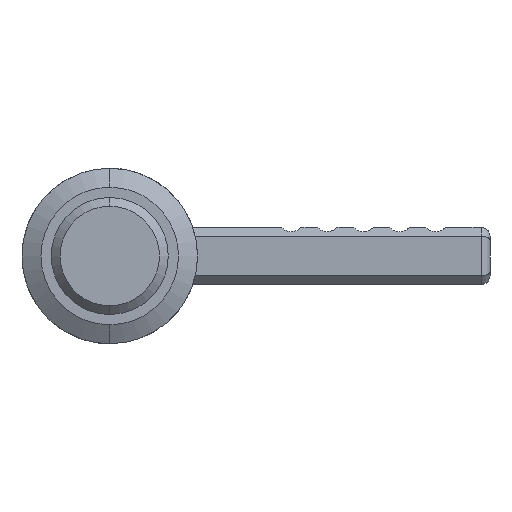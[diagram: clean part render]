
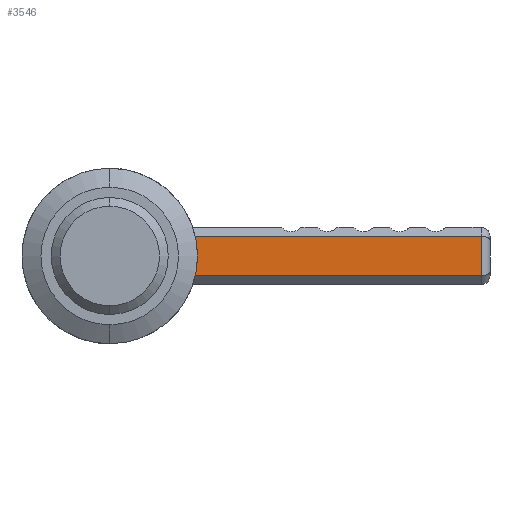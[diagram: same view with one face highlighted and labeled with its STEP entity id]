
A CAD part, front view. The second image highlights one B-rep face of the part: STEP entity #3546.
In plain terms, the highlighted planar face has unit normal (0, -1, 0).
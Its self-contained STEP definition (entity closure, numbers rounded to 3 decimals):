
#68 = ORIENTED_EDGE ( 'NONE', *, *, #3226, .T. ) ;
#181 = VERTEX_POINT ( 'NONE', #612 ) ;
#495 = CARTESIAN_POINT ( 'NONE',  ( 0., 35., -3.299 ) ) ;
#612 = CARTESIAN_POINT ( 'NONE',  ( 3.708, 35., 1.349 ) ) ;
#912 = CARTESIAN_POINT ( 'NONE',  ( 2.718, 35., -1.87 ) ) ;
#964 = DIRECTION ( 'NONE',  ( 0., 0., 1. ) ) ;
#965 = DIRECTION ( 'NONE',  ( 0., -1., 0. ) ) ;
#966 = CARTESIAN_POINT ( 'NONE',  ( 0., 35., 0. ) ) ;
#967 = AXIS2_PLACEMENT_3D ( 'NONE', #966, #965, #964 ) ;
#968 = CIRCLE ( 'NONE', #967, 3.299 ) ;
#987 = CARTESIAN_POINT ( 'NONE',  ( 0., 35., 3.299 ) ) ;
#988 = DIRECTION ( 'NONE',  ( 0., 0., 1. ) ) ;
#989 = DIRECTION ( 'NONE',  ( 0., -1., 0. ) ) ;
#990 = CARTESIAN_POINT ( 'NONE',  ( 0., 35., 0. ) ) ;
#991 = AXIS2_PLACEMENT_3D ( 'NONE', #990, #989, #988 ) ;
#992 = CIRCLE ( 'NONE', #991, 3.299 ) ;
#1092 = CARTESIAN_POINT ( 'NONE',  ( 0., 35., -3. ) ) ;
#1108 = DIRECTION ( 'NONE',  ( 0., 0., -1. ) ) ;
#1109 = DIRECTION ( 'NONE',  ( 0., -1., 0. ) ) ;
#1110 = CARTESIAN_POINT ( 'NONE',  ( 0., 35., 0. ) ) ;
#1111 = AXIS2_PLACEMENT_3D ( 'NONE', #1110, #1109, #1108 ) ;
#1112 = CIRCLE ( 'NONE', #1111, 3. ) ;
#1124 = CARTESIAN_POINT ( 'NONE',  ( 0., 35., 3. ) ) ;
#1443 = DIRECTION ( 'NONE',  ( -1., 0., 0. ) ) ;
#1444 = VECTOR ( 'NONE', #1443, 1000. ) ;
#1445 = CARTESIAN_POINT ( 'NONE',  ( 3.708, 35., 1.349 ) ) ;
#1446 = LINE ( 'NONE', #1445, #1444 ) ;
#1479 = CARTESIAN_POINT ( 'NONE',  ( 25.399, 35., 1.349 ) ) ;
#1482 = DIRECTION ( 'NONE',  ( 0., 0., 1. ) ) ;
#1483 = VECTOR ( 'NONE', #1482, 1000. ) ;
#1484 = CARTESIAN_POINT ( 'NONE',  ( 25.399, 35., 1.349 ) ) ;
#1485 = LINE ( 'NONE', #1484, #1483 ) ;
#1492 = DIRECTION ( 'NONE',  ( 0., 0., 1. ) ) ;
#1493 = DIRECTION ( 'NONE',  ( 0., 1., 0. ) ) ;
#1495 = CARTESIAN_POINT ( 'NONE',  ( -3., 35., 0. ) ) ;
#1496 = AXIS2_PLACEMENT_3D ( 'NONE', #1495, #1493, #1492 ) ;
#1497 = PLANE ( 'NONE',  #1496 ) ;
#1498 = FACE_OUTER_BOUND ( 'NONE', #3547, .T. ) ;
#1499 = FACE_BOUND ( 'NONE', #3681, .T. ) ;
#1500 = DIRECTION ( 'NONE',  ( 1., 0., 0. ) ) ;
#1501 = VECTOR ( 'NONE', #1500, 1000. ) ;
#1502 = CARTESIAN_POINT ( 'NONE',  ( 26., 35., -1.349 ) ) ;
#1503 = LINE ( 'NONE', #1502, #1501 ) ;
#1509 = CARTESIAN_POINT ( 'NONE',  ( 25.399, 35., -1.349 ) ) ;
#1513 = CARTESIAN_POINT ( 'NONE',  ( 3.708, 35., -1.349 ) ) ;
#1527 = DIRECTION ( 'NONE',  ( 0., 0., 1. ) ) ;
#1528 = DIRECTION ( 'NONE',  ( 0., 1., 0. ) ) ;
#1529 = CARTESIAN_POINT ( 'NONE',  ( 3.708, 35., -2.551 ) ) ;
#1530 = AXIS2_PLACEMENT_3D ( 'NONE', #1529, #1528, #1527 ) ;
#1531 = CIRCLE ( 'NONE', #1530, 1.201 ) ;
#1769 = DIRECTION ( 'NONE',  ( 0., 0., -1. ) ) ;
#1770 = DIRECTION ( 'NONE',  ( 0., -1., 0. ) ) ;
#1771 = CARTESIAN_POINT ( 'NONE',  ( 0., 35., 0. ) ) ;
#1772 = AXIS2_PLACEMENT_3D ( 'NONE', #1771, #1770, #1769 ) ;
#1773 = CIRCLE ( 'NONE', #1772, 3. ) ;
#2787 = DIRECTION ( 'NONE',  ( 0., 0., 1. ) ) ;
#2788 = DIRECTION ( 'NONE',  ( 0., 1., 0. ) ) ;
#2789 = CARTESIAN_POINT ( 'NONE',  ( 3.708, 35., 2.551 ) ) ;
#2790 = AXIS2_PLACEMENT_3D ( 'NONE', #2789, #2788, #2787 ) ;
#2791 = CIRCLE ( 'NONE', #2790, 1.201 ) ;
#2792 = CARTESIAN_POINT ( 'NONE',  ( 2.718, 35., 1.87 ) ) ;
#2798 = DIRECTION ( 'NONE',  ( 0., 0., 1. ) ) ;
#2799 = DIRECTION ( 'NONE',  ( 0., -1., 0. ) ) ;
#2800 = CARTESIAN_POINT ( 'NONE',  ( 0., 35., 0. ) ) ;
#2801 = AXIS2_PLACEMENT_3D ( 'NONE', #2800, #2799, #2798 ) ;
#2802 = CIRCLE ( 'NONE', #2801, 3.299 ) ;
#3218 = VERTEX_POINT ( 'NONE', #912 ) ;
#3221 = VERTEX_POINT ( 'NONE', #495 ) ;
#3226 = EDGE_CURVE ( 'NONE', #3221, #3218, #968, .T. ) ;
#3242 = EDGE_CURVE ( 'NONE', #3243, #3221, #992, .T. ) ;
#3243 = VERTEX_POINT ( 'NONE', #987 ) ;
#3307 = VERTEX_POINT ( 'NONE', #1092 ) ;
#3321 = VERTEX_POINT ( 'NONE', #1124 ) ;
#3331 = EDGE_CURVE ( 'NONE', #3307, #3321, #1112, .T. ) ;
#3500 = EDGE_CURVE ( 'NONE', #3517, #181, #1446, .T. ) ;
#3512 = ORIENTED_EDGE ( 'NONE', *, *, #3500, .T. ) ;
#3513 = EDGE_CURVE ( 'NONE', #3538, #3517, #1485, .T. ) ;
#3515 = ORIENTED_EDGE ( 'NONE', *, *, #3513, .T. ) ;
#3517 = VERTEX_POINT ( 'NONE', #1479 ) ;
#3536 = VERTEX_POINT ( 'NONE', #1513 ) ;
#3538 = VERTEX_POINT ( 'NONE', #1509 ) ;
#3541 = EDGE_CURVE ( 'NONE', #3536, #3538, #1503, .T. ) ;
#3542 = ORIENTED_EDGE ( 'NONE', *, *, #3541, .T. ) ;
#3544 = ORIENTED_EDGE ( 'NONE', *, *, #3331, .F. ) ;
#3545 = ORIENTED_EDGE ( 'NONE', *, *, #3687, .F. ) ;
#3546 = ADVANCED_FACE ( 'NONE', ( #1499, #1498 ), #1497, .F. ) ;
#3547 = EDGE_LOOP ( 'NONE', ( #3542, #3515, #3512, #4299, #4295, #4284, #68, #3560 ) ) ;
#3560 = ORIENTED_EDGE ( 'NONE', *, *, #3562, .T. ) ;
#3562 = EDGE_CURVE ( 'NONE', #3218, #3536, #1531, .T. ) ;
#3681 = EDGE_LOOP ( 'NONE', ( #3544, #3545 ) ) ;
#3687 = EDGE_CURVE ( 'NONE', #3321, #3307, #1773, .T. ) ;
#4284 = ORIENTED_EDGE ( 'NONE', *, *, #3242, .T. ) ;
#4289 = EDGE_CURVE ( 'NONE', #4294, #3243, #2802, .T. ) ;
#4294 = VERTEX_POINT ( 'NONE', #2792 ) ;
#4295 = ORIENTED_EDGE ( 'NONE', *, *, #4289, .T. ) ;
#4297 = EDGE_CURVE ( 'NONE', #181, #4294, #2791, .T. ) ;
#4299 = ORIENTED_EDGE ( 'NONE', *, *, #4297, .T. ) ;
